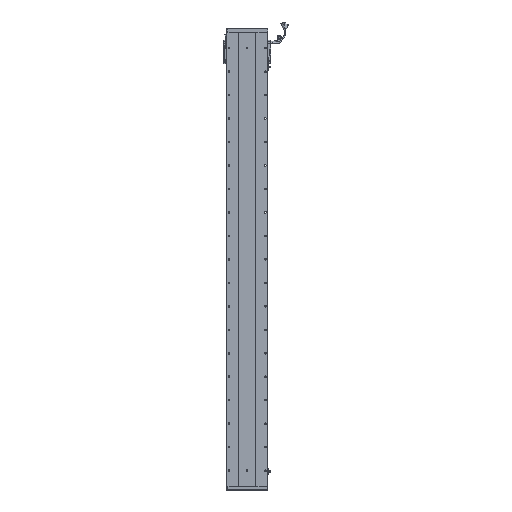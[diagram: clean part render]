
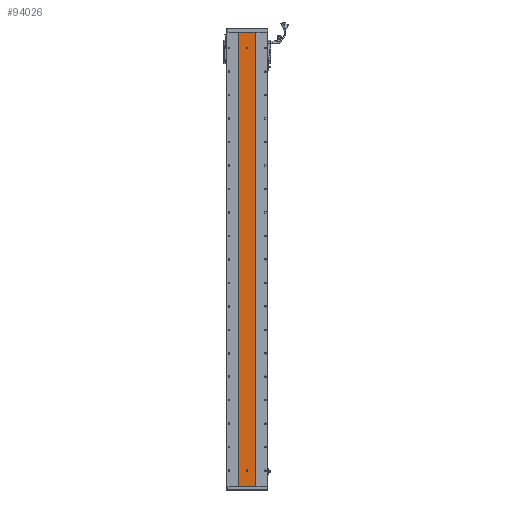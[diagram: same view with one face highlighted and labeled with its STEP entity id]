
A CAD part, front view. The second image highlights one B-rep face of the part: STEP entity #94026.
In plain terms, the highlighted planar face has unit normal (0, -1, 0).
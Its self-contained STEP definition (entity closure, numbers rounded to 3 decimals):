
#1339 = EDGE_CURVE ( 'NONE', #78754, #66952, #21635, .T. ) ;
#2839 = VECTOR ( 'NONE', #30962, 1000. ) ;
#3248 = CARTESIAN_POINT ( 'NONE',  ( 3316.311, 1415.701, 0. ) ) ;
#3429 = EDGE_CURVE ( 'NONE', #19514, #80264, #47409, .T. ) ;
#4405 = CARTESIAN_POINT ( 'NONE',  ( 3280.529, 1415.701, 70. ) ) ;
#8251 = LINE ( 'NONE', #78702, #10831 ) ;
#8518 = DIRECTION ( 'NONE',  ( 0., 1., 0. ) ) ;
#8907 = EDGE_CURVE ( 'NONE', #19514, #27305, #8251, .T. ) ;
#9577 = CARTESIAN_POINT ( 'NONE',  ( 3244.748, 1415.701, 1937. ) ) ;
#10321 = EDGE_CURVE ( 'NONE', #16504, #89643, #47331, .T. ) ;
#10498 = AXIS2_PLACEMENT_3D ( 'NONE', #11931, #95750, #78184 ) ;
#10594 = CARTESIAN_POINT ( 'NONE',  ( 3277.529, 1415.701, 67. ) ) ;
#10831 = VECTOR ( 'NONE', #27158, 1000. ) ;
#11429 = DIRECTION ( 'NONE',  ( 0., 0., -1. ) ) ;
#11797 = ORIENTED_EDGE ( 'NONE', *, *, #10321, .F. ) ;
#11852 = AXIS2_PLACEMENT_3D ( 'NONE', #9577, #8518, #67118 ) ;
#11883 = EDGE_LOOP ( 'NONE', ( #54213, #66811, #25064, #43216 ) ) ;
#11931 = CARTESIAN_POINT ( 'NONE',  ( 3280.529, 1415.701, 67. ) ) ;
#12811 = DIRECTION ( 'NONE',  ( 0., 0., -1. ) ) ;
#13878 = FACE_BOUND ( 'NONE', #37810, .T. ) ;
#14273 = VERTEX_POINT ( 'NONE', #91646 ) ;
#14352 = DIRECTION ( 'NONE',  ( 0., 0., -1. ) ) ;
#15218 = CARTESIAN_POINT ( 'NONE',  ( 3280.529, 1415.701, 1868.5 ) ) ;
#15373 = EDGE_CURVE ( 'NONE', #89643, #78754, #49556, .T. ) ;
#16504 = VERTEX_POINT ( 'NONE', #10594 ) ;
#17260 = VERTEX_POINT ( 'NONE', #91546 ) ;
#17324 = DIRECTION ( 'NONE',  ( 0., -1., 0. ) ) ;
#19514 = VERTEX_POINT ( 'NONE', #64946 ) ;
#20258 = VECTOR ( 'NONE', #78326, 1000. ) ;
#21635 = LINE ( 'NONE', #87782, #28110 ) ;
#22529 = VECTOR ( 'NONE', #51048, 1000. ) ;
#23108 = FACE_OUTER_BOUND ( 'NONE', #11883, .T. ) ;
#23289 = CIRCLE ( 'NONE', #106299, 3. ) ;
#25064 = ORIENTED_EDGE ( 'NONE', *, *, #3429, .F. ) ;
#26342 = VECTOR ( 'NONE', #11429, 1000. ) ;
#27158 = DIRECTION ( 'NONE',  ( 0., 0., -1. ) ) ;
#27305 = VERTEX_POINT ( 'NONE', #57584 ) ;
#28110 = VECTOR ( 'NONE', #86683, 1000. ) ;
#29639 = CIRCLE ( 'NONE', #104168, 3. ) ;
#29888 = CARTESIAN_POINT ( 'NONE',  ( 3244.748, 1415.701, 0. ) ) ;
#29966 = ORIENTED_EDGE ( 'NONE', *, *, #79169, .F. ) ;
#30962 = DIRECTION ( 'NONE',  ( 1., 0., 0. ) ) ;
#31649 = CARTESIAN_POINT ( 'NONE',  ( 3283.529, 1415.701, 70. ) ) ;
#32439 = DIRECTION ( 'NONE',  ( 0., -1., 0. ) ) ;
#33447 = CARTESIAN_POINT ( 'NONE',  ( 3280.529, 1415.701, 1868.5 ) ) ;
#33846 = EDGE_CURVE ( 'NONE', #66952, #17260, #29639, .T. ) ;
#34058 = ORIENTED_EDGE ( 'NONE', *, *, #101077, .F. ) ;
#35195 = PLANE ( 'NONE',  #11852 ) ;
#37810 = EDGE_LOOP ( 'NONE', ( #34058, #29966 ) ) ;
#43216 = ORIENTED_EDGE ( 'NONE', *, *, #8907, .T. ) ;
#44773 = EDGE_CURVE ( 'NONE', #27305, #54877, #85244, .T. ) ;
#45117 = CARTESIAN_POINT ( 'NONE',  ( 3277.529, 1415.701, 70. ) ) ;
#47331 = CIRCLE ( 'NONE', #106180, 3. ) ;
#47409 = LINE ( 'NONE', #73748, #22529 ) ;
#47667 = CARTESIAN_POINT ( 'NONE',  ( 3280.529, 1415.701, 67. ) ) ;
#49066 = CARTESIAN_POINT ( 'NONE',  ( 3283.529, 1415.701, 67. ) ) ;
#49556 = CIRCLE ( 'NONE', #10498, 3. ) ;
#51048 = DIRECTION ( 'NONE',  ( 1., 0., 0. ) ) ;
#54213 = ORIENTED_EDGE ( 'NONE', *, *, #44773, .T. ) ;
#54877 = VERTEX_POINT ( 'NONE', #3248 ) ;
#55141 = CIRCLE ( 'NONE', #74927, 3. ) ;
#56109 = DIRECTION ( 'NONE',  ( 0., -1., 0. ) ) ;
#56403 = CARTESIAN_POINT ( 'NONE',  ( 3280.529, 1415.701, 1865.5 ) ) ;
#57584 = CARTESIAN_POINT ( 'NONE',  ( 3244.748, 1415.701, 0. ) ) ;
#59665 = ORIENTED_EDGE ( 'NONE', *, *, #90882, .F. ) ;
#62276 = CARTESIAN_POINT ( 'NONE',  ( 3316.311, 1415.701, 1937. ) ) ;
#63022 = DIRECTION ( 'NONE',  ( 0., -1., 0. ) ) ;
#64946 = CARTESIAN_POINT ( 'NONE',  ( 3244.748, 1415.701, 1937. ) ) ;
#65551 = ORIENTED_EDGE ( 'NONE', *, *, #33846, .F. ) ;
#65884 = VERTEX_POINT ( 'NONE', #56403 ) ;
#66811 = ORIENTED_EDGE ( 'NONE', *, *, #87233, .F. ) ;
#66952 = VERTEX_POINT ( 'NONE', #31649 ) ;
#67118 = DIRECTION ( 'NONE',  ( 0., 0., 1. ) ) ;
#67500 = DIRECTION ( 'NONE',  ( 0., 0., -1. ) ) ;
#67943 = ORIENTED_EDGE ( 'NONE', *, *, #1339, .F. ) ;
#73276 = ORIENTED_EDGE ( 'NONE', *, *, #15373, .F. ) ;
#73748 = CARTESIAN_POINT ( 'NONE',  ( 3244.748, 1415.701, 1937. ) ) ;
#74927 = AXIS2_PLACEMENT_3D ( 'NONE', #33447, #17324, #67500 ) ;
#76531 = CARTESIAN_POINT ( 'NONE',  ( 3280.529, 1415.701, 64. ) ) ;
#77350 = LINE ( 'NONE', #45117, #26342 ) ;
#78184 = DIRECTION ( 'NONE',  ( 0., 0., -1. ) ) ;
#78326 = DIRECTION ( 'NONE',  ( 0., 0., -1. ) ) ;
#78702 = CARTESIAN_POINT ( 'NONE',  ( 3244.748, 1415.701, 1937. ) ) ;
#78754 = VERTEX_POINT ( 'NONE', #49066 ) ;
#79169 = EDGE_CURVE ( 'NONE', #14273, #65884, #23289, .T. ) ;
#80264 = VERTEX_POINT ( 'NONE', #99180 ) ;
#82002 = FACE_BOUND ( 'NONE', #92965, .T. ) ;
#85244 = LINE ( 'NONE', #29888, #2839 ) ;
#86683 = DIRECTION ( 'NONE',  ( 0., 0., 1. ) ) ;
#87233 = EDGE_CURVE ( 'NONE', #80264, #54877, #96171, .T. ) ;
#87782 = CARTESIAN_POINT ( 'NONE',  ( 3283.529, 1415.701, 70. ) ) ;
#89643 = VERTEX_POINT ( 'NONE', #76531 ) ;
#90227 = DIRECTION ( 'NONE',  ( 0., 0., -1. ) ) ;
#90882 = EDGE_CURVE ( 'NONE', #17260, #16504, #77350, .T. ) ;
#91546 = CARTESIAN_POINT ( 'NONE',  ( 3277.529, 1415.701, 70. ) ) ;
#91646 = CARTESIAN_POINT ( 'NONE',  ( 3280.529, 1415.701, 1871.5 ) ) ;
#92965 = EDGE_LOOP ( 'NONE', ( #11797, #59665, #65551, #67943, #73276 ) ) ;
#94026 = ADVANCED_FACE ( 'NONE', ( #82002, #13878, #23108 ), #35195, .F. ) ;
#95750 = DIRECTION ( 'NONE',  ( 0., -1., 0. ) ) ;
#96171 = LINE ( 'NONE', #62276, #20258 ) ;
#99180 = CARTESIAN_POINT ( 'NONE',  ( 3316.311, 1415.701, 1937. ) ) ;
#101077 = EDGE_CURVE ( 'NONE', #65884, #14273, #55141, .T. ) ;
#104168 = AXIS2_PLACEMENT_3D ( 'NONE', #4405, #63022, #12811 ) ;
#106180 = AXIS2_PLACEMENT_3D ( 'NONE', #47667, #56109, #14352 ) ;
#106299 = AXIS2_PLACEMENT_3D ( 'NONE', #15218, #32439, #90227 ) ;
